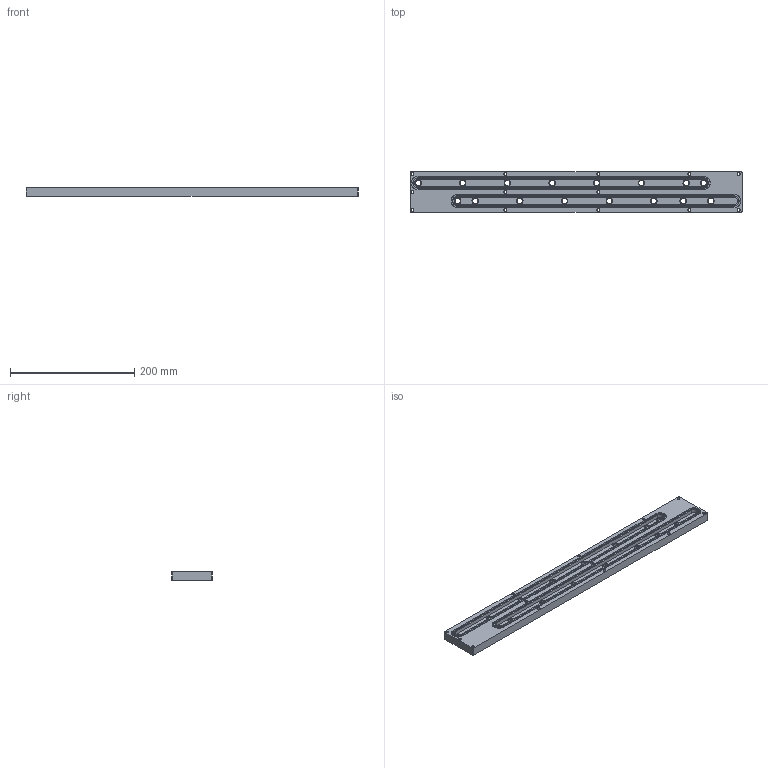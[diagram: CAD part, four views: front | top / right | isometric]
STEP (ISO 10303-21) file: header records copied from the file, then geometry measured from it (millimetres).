
FILE_DESCRIPTION(('STEP AP203'), '1');
FILE_NAME('ÒÏÏÔ1801.01.07.02.006 - Êîëëåêòîð', '', ('UNSPECIFIED'), ('UNSPECIFIED'), 'C3D Converter', 'C3D Toolkit', '');
FILE_SCHEMA(('CONFIG_CONTROL_DESIGN'));
Length unit declared in the file: millimetre
Products named in the file (1): ТППФ1801.01.07.02.006
Bounding box: 535 x 65 x 14 mm (x, y, z)
Volume: 396294.9 mm3; surface area: 110157.4 mm2
Topology: 1 solids, 1 shells, 117 faces, 279 edges, 170 vertices
Faces by surface type: cylinder 53, cone 32, plane 24, torus 8
Full cylindrical faces by diameter (mm): 4.5 x13, 8.566 x16
Entity records: 4182 total; most frequent: DIRECTION 600, CARTESIAN_POINT 506, ORIENTED_EDGE 436, AXIS2_PLACEMENT_3D 264, EDGE_LOOP 242, EDGE_CURVE 218, VERTEX_POINT 170, CIRCLE 146
